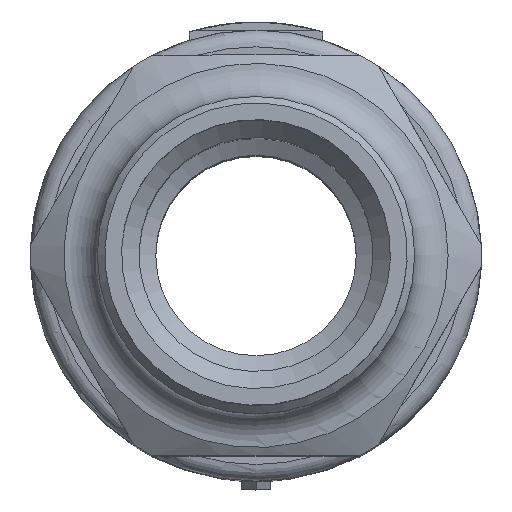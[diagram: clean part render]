
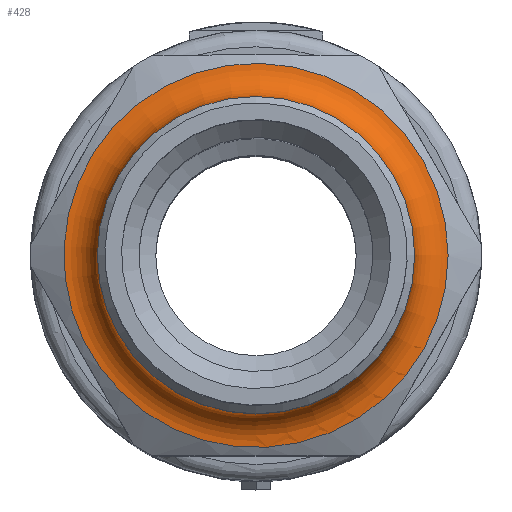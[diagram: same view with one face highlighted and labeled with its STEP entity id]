
A CAD part, top view. The second image highlights one B-rep face of the part: STEP entity #428.
In plain terms, the highlighted toroidal (fillet/blend) face has major radius 11.5 mm and minor radius 2 mm.
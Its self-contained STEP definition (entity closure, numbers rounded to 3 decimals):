
#109=TOROIDAL_SURFACE('',#2163,11.5,2.);
#428=ADVANCED_FACE('',(#738,#739),#109,.F.);
#738=FACE_BOUND('',#897,.T.);
#739=FACE_BOUND('',#898,.T.);
#897=EDGE_LOOP('',(#1303));
#898=EDGE_LOOP('',(#1304));
#1303=ORIENTED_EDGE('',*,*,#1810,.F.);
#1304=ORIENTED_EDGE('',*,*,#1811,.F.);
#1581=VERTEX_POINT('',#3502);
#1582=VERTEX_POINT('',#3504);
#1810=EDGE_CURVE('',#1581,#1581,#1951,.T.);
#1811=EDGE_CURVE('',#1582,#1582,#1952,.T.);
#1951=CIRCLE('',#2161,11.5);
#1952=CIRCLE('',#2162,9.5);
#2161=AXIS2_PLACEMENT_3D('',#3501,#2654,#2655);
#2162=AXIS2_PLACEMENT_3D('',#3503,#2656,#2657);
#2163=AXIS2_PLACEMENT_3D('',#3505,#2658,#2659);
#2654=DIRECTION('',(0.,0.,-1.));
#2655=DIRECTION('',(1.,0.,0.));
#2656=DIRECTION('',(0.,0.,1.));
#2657=DIRECTION('',(1.,0.,0.));
#2658=DIRECTION('',(0.,0.,1.));
#2659=DIRECTION('',(1.,0.,0.));
#3501=CARTESIAN_POINT('',(0.,0.,28.));
#3502=CARTESIAN_POINT('',(11.5,0.,28.));
#3503=CARTESIAN_POINT('',(0.,0.,30.));
#3504=CARTESIAN_POINT('',(9.5,0.,30.));
#3505=CARTESIAN_POINT('',(0.,0.,30.));
